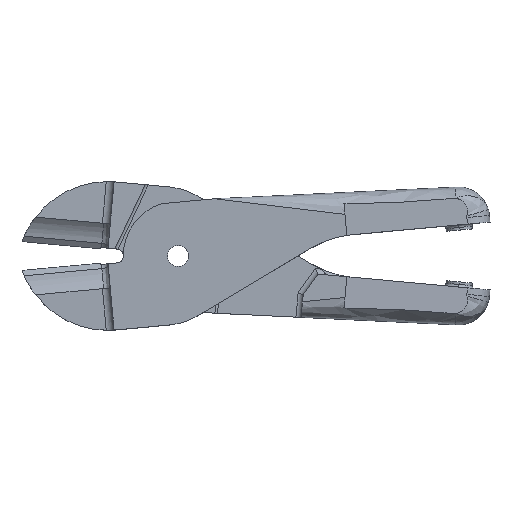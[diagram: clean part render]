
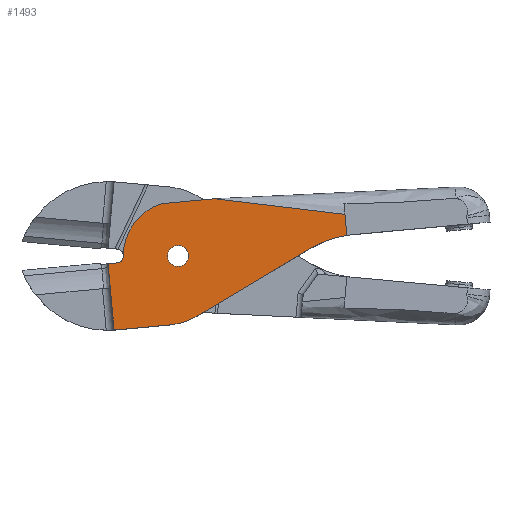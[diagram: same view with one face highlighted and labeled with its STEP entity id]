
A CAD part, top view. The second image highlights one B-rep face of the part: STEP entity #1493.
In plain terms, the highlighted planar face has unit normal (0, 0, 1) as drawn and (0, 0, -1) by its records, which use the part's own axes.
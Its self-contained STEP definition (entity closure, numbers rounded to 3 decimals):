
#126 = EDGE_LOOP ( 'NONE', ( #348, #2637, #900, #1845, #313, #704, #2527, #1367, #1574, #1930, #1407, #2032 ) ) ;
#241 = VERTEX_POINT ( 'NONE', #674 ) ;
#265 = FACE_BOUND ( 'NONE', #1763, .T. ) ;
#302 = LINE ( 'NONE', #859, #2733 ) ;
#303 = EDGE_CURVE ( 'NONE', #1965, #757, #2113, .T. ) ;
#313 = ORIENTED_EDGE ( 'NONE', *, *, #2465, .F. ) ;
#342 = CARTESIAN_POINT ( 'NONE',  ( -20.924, -1.787, -12.5 ) ) ;
#348 = ORIENTED_EDGE ( 'NONE', *, *, #1703, .T. ) ;
#448 = CARTESIAN_POINT ( 'NONE',  ( -5.683, 26., -12.5 ) ) ;
#490 = CARTESIAN_POINT ( 'NONE',  ( -26.177, 26., -12.5 ) ) ;
#516 = CARTESIAN_POINT ( 'NONE',  ( -27., 0.5, -12.5 ) ) ;
#518 = EDGE_CURVE ( 'NONE', #2441, #2419, #858, .T. ) ;
#540 = CARTESIAN_POINT ( 'NONE',  ( 65., -10.005, -12.5 ) ) ;
#572 = CARTESIAN_POINT ( 'NONE',  ( 65., -10.005, -12.5 ) ) ;
#577 = CIRCLE ( 'NONE', #695, 4.05 ) ;
#584 = CARTESIAN_POINT ( 'NONE',  ( 32.321, -16.706, -12.5 ) ) ;
#614 = EDGE_CURVE ( 'NONE', #241, #1213, #1398, .T. ) ;
#622 = VERTEX_POINT ( 'NONE', #448 ) ;
#636 = AXIS2_PLACEMENT_3D ( 'NONE', #2678, #1690, #1084 ) ;
#674 = CARTESIAN_POINT ( 'NONE',  ( 50.2, 1.931, -12.5 ) ) ;
#695 = AXIS2_PLACEMENT_3D ( 'NONE', #1670, #1694, #1705 ) ;
#703 = EDGE_CURVE ( 'NONE', #2526, #1168, #1727, .T. ) ;
#704 = ORIENTED_EDGE ( 'NONE', *, *, #1768, .F. ) ;
#752 = CARTESIAN_POINT ( 'NONE',  ( 67.493, 38., -12.5 ) ) ;
#757 = VERTEX_POINT ( 'NONE', #851 ) ;
#766 = EDGE_CURVE ( 'NONE', #2419, #2724, #1582, .T. ) ;
#774 = CARTESIAN_POINT ( 'NONE',  ( -5.683, 1., -12.5 ) ) ;
#782 = DIRECTION ( 'NONE',  ( 0., 0., 1. ) ) ;
#789 = VECTOR ( 'NONE', #1697, 1000. ) ;
#802 = DIRECTION ( 'NONE',  ( 1., 0., 0. ) ) ;
#837 = ORIENTED_EDGE ( 'NONE', *, *, #703, .F. ) ;
#851 = CARTESIAN_POINT ( 'NONE',  ( 16., -20.5, -12.5 ) ) ;
#858 = LINE ( 'NONE', #1722, #789 ) ;
#859 = CARTESIAN_POINT ( 'NONE',  ( 65., 2.75, -12.5 ) ) ;
#878 = AXIS2_PLACEMENT_3D ( 'NONE', #1860, #2627, #2664 ) ;
#900 = ORIENTED_EDGE ( 'NONE', *, *, #1559, .F. ) ;
#916 = FACE_OUTER_BOUND ( 'NONE', #126, .T. ) ;
#934 = CARTESIAN_POINT ( 'NONE',  ( -27., 25.99, -12.5 ) ) ;
#974 = DIRECTION ( 'NONE',  ( -1., 0., 0. ) ) ;
#1004 = EDGE_CURVE ( 'NONE', #1168, #2526, #577, .T. ) ;
#1057 = VECTOR ( 'NONE', #2371, 1000. ) ;
#1084 = DIRECTION ( 'NONE',  ( 1., 0., 0. ) ) ;
#1086 = CIRCLE ( 'NONE', #2631, 40. ) ;
#1093 = EDGE_CURVE ( 'NONE', #2724, #1965, #1549, .T. ) ;
#1103 = CARTESIAN_POINT ( 'NONE',  ( 19., -20.5, -12.5 ) ) ;
#1114 = CARTESIAN_POINT ( 'NONE',  ( 0., 0., -12.5 ) ) ;
#1123 = CARTESIAN_POINT ( 'NONE',  ( 65., -1.922, -12.5 ) ) ;
#1168 = VERTEX_POINT ( 'NONE', #2690 ) ;
#1213 = VERTEX_POINT ( 'NONE', #2944 ) ;
#1216 = CIRCLE ( 'NONE', #2958, 25. ) ;
#1275 = AXIS2_PLACEMENT_3D ( 'NONE', #2194, #2620, #2657 ) ;
#1276 = DIRECTION ( 'NONE',  ( 1., 0., 0. ) ) ;
#1287 = EDGE_CURVE ( 'NONE', #757, #1548, #2534, .T. ) ;
#1367 = ORIENTED_EDGE ( 'NONE', *, *, #303, .F. ) ;
#1398 = LINE ( 'NONE', #2354, #1958 ) ;
#1407 = ORIENTED_EDGE ( 'NONE', *, *, #518, .F. ) ;
#1473 = VECTOR ( 'NONE', #2287, 1000. ) ;
#1491 = CARTESIAN_POINT ( 'NONE',  ( -27., -20.5, -12.5 ) ) ;
#1493 = ADVANCED_FACE ( 'NONE', ( #265, #916 ), #1843, .F. ) ;
#1527 = CARTESIAN_POINT ( 'NONE',  ( -4.555, -20.5, -12.5 ) ) ;
#1548 = VERTEX_POINT ( 'NONE', #540 ) ;
#1549 = CIRCLE ( 'NONE', #1275, 21. ) ;
#1559 = EDGE_CURVE ( 'NONE', #1213, #622, #1216, .T. ) ;
#1574 = ORIENTED_EDGE ( 'NONE', *, *, #1093, .F. ) ;
#1575 = LINE ( 'NONE', #1904, #2145 ) ;
#1582 = CIRCLE ( 'NONE', #636, 2.5 ) ;
#1589 = VERTEX_POINT ( 'NONE', #934 ) ;
#1603 = DIRECTION ( 'NONE',  ( -0.902, 0.432, 0. ) ) ;
#1609 = CIRCLE ( 'NONE', #878, 35. ) ;
#1659 = DIRECTION ( 'NONE',  ( 0., -1., 0. ) ) ;
#1670 = CARTESIAN_POINT ( 'NONE',  ( 0., 0., -12.5 ) ) ;
#1690 = DIRECTION ( 'NONE',  ( 0., 0., -1. ) ) ;
#1694 = DIRECTION ( 'NONE',  ( 0., 0., -1. ) ) ;
#1697 = DIRECTION ( 'NONE',  ( 1., 0., 0. ) ) ;
#1703 = EDGE_CURVE ( 'NONE', #1589, #2494, #1609, .T. ) ;
#1705 = DIRECTION ( 'NONE',  ( 1., 0., 0. ) ) ;
#1722 = CARTESIAN_POINT ( 'NONE',  ( 19., 0.5, -12.5 ) ) ;
#1727 = CIRCLE ( 'NONE', #2837, 4.05 ) ;
#1763 = EDGE_LOOP ( 'NONE', ( #2705, #837 ) ) ;
#1768 = EDGE_CURVE ( 'NONE', #1548, #2278, #302, .T. ) ;
#1820 = CARTESIAN_POINT ( 'NONE',  ( -23.415, 0.5, -12.5 ) ) ;
#1840 = DIRECTION ( 'NONE',  ( 1., 0., 0. ) ) ;
#1843 = PLANE ( 'NONE',  #2647 ) ;
#1845 = ORIENTED_EDGE ( 'NONE', *, *, #614, .F. ) ;
#1853 = CARTESIAN_POINT ( 'NONE',  ( -4.05, 0., -12.5 ) ) ;
#1860 = CARTESIAN_POINT ( 'NONE',  ( -26.177, -9., -12.5 ) ) ;
#1904 = CARTESIAN_POINT ( 'NONE',  ( -27., 2.75, -12.5 ) ) ;
#1930 = ORIENTED_EDGE ( 'NONE', *, *, #766, .F. ) ;
#1958 = VECTOR ( 'NONE', #1603, 1000. ) ;
#1965 = VERTEX_POINT ( 'NONE', #1527 ) ;
#2032 = ORIENTED_EDGE ( 'NONE', *, *, #2144, .F. ) ;
#2040 = EDGE_CURVE ( 'NONE', #622, #2494, #2294, .T. ) ;
#2060 = CARTESIAN_POINT ( 'NONE',  ( 48.641, -12.912, -12.5 ) ) ;
#2113 = LINE ( 'NONE', #1103, #1473 ) ;
#2134 = CARTESIAN_POINT ( 'NONE',  ( 19., 26., -12.5 ) ) ;
#2144 = EDGE_CURVE ( 'NONE', #1589, #2441, #1575, .T. ) ;
#2145 = VECTOR ( 'NONE', #1659, 1000. ) ;
#2194 = CARTESIAN_POINT ( 'NONE',  ( 0., 0., -12.5 ) ) ;
#2220 = DIRECTION ( 'NONE',  ( 0., 0., 1. ) ) ;
#2278 = VERTEX_POINT ( 'NONE', #1123 ) ;
#2287 = DIRECTION ( 'NONE',  ( 1., 0., 0. ) ) ;
#2294 = LINE ( 'NONE', #2134, #1057 ) ;
#2354 = CARTESIAN_POINT ( 'NONE',  ( 27.663, 12.737, -12.5 ) ) ;
#2355 = DIRECTION ( 'NONE',  ( 0., 0., -1. ) ) ;
#2371 = DIRECTION ( 'NONE',  ( -1., 0., 0. ) ) ;
#2419 = VERTEX_POINT ( 'NONE', #1820 ) ;
#2441 = VERTEX_POINT ( 'NONE', #516 ) ;
#2465 = EDGE_CURVE ( 'NONE', #2278, #241, #1086, .T. ) ;
#2466 = CARTESIAN_POINT ( 'NONE',  ( 16., -20.5, -12.5 ) ) ;
#2494 = VERTEX_POINT ( 'NONE', #490 ) ;
#2526 = VERTEX_POINT ( 'NONE', #1853 ) ;
#2527 = ORIENTED_EDGE ( 'NONE', *, *, #1287, .F. ) ;
#2534 = B_SPLINE_CURVE_WITH_KNOTS ( 'NONE', 3,
 ( #2466, #584, #2060, #572 ),
 .UNSPECIFIED., .F., .F.,
 ( 4, 4 ),
 ( 0., 1. ),
 .UNSPECIFIED. ) ;
#2547 = DIRECTION ( 'NONE',  ( 0., 0., -1. ) ) ;
#2620 = DIRECTION ( 'NONE',  ( 0., 0., 1. ) ) ;
#2627 = DIRECTION ( 'NONE',  ( 0., 0., -1. ) ) ;
#2631 = AXIS2_PLACEMENT_3D ( 'NONE', #752, #2355, #974 ) ;
#2637 = ORIENTED_EDGE ( 'NONE', *, *, #2040, .F. ) ;
#2647 = AXIS2_PLACEMENT_3D ( 'NONE', #1491, #2220, #1276 ) ;
#2657 = DIRECTION ( 'NONE',  ( 1., 0., 0. ) ) ;
#2664 = DIRECTION ( 'NONE',  ( 1., 0., 0. ) ) ;
#2678 = CARTESIAN_POINT ( 'NONE',  ( -23.415, -2., -12.5 ) ) ;
#2690 = CARTESIAN_POINT ( 'NONE',  ( 4.05, 0., -12.5 ) ) ;
#2705 = ORIENTED_EDGE ( 'NONE', *, *, #1004, .F. ) ;
#2724 = VERTEX_POINT ( 'NONE', #342 ) ;
#2733 = VECTOR ( 'NONE', #2874, 1000. ) ;
#2837 = AXIS2_PLACEMENT_3D ( 'NONE', #1114, #2547, #1840 ) ;
#2874 = DIRECTION ( 'NONE',  ( 0., 1., 0. ) ) ;
#2944 = CARTESIAN_POINT ( 'NONE',  ( 5.125, 23.543, -12.5 ) ) ;
#2958 = AXIS2_PLACEMENT_3D ( 'NONE', #774, #782, #802 ) ;
